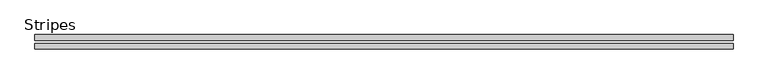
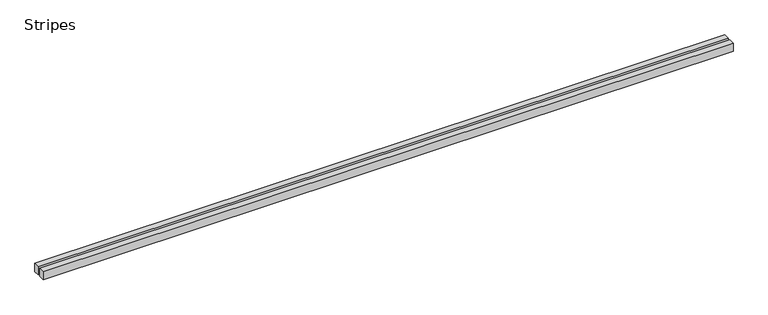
"""IFC4 building model written with IfcOpenShell, lengths in millimetres: sanitary terminal geometry, ZZZ_do not use_PF_ST_grating for showerdrain s_Aco : Stripes."""

from ifc_helpers import new_model, si_unit, frame, origin, place, context, project, spatial, polyline, outline, extrude, source, transform, mapped, element, save


def stripes_a5dfda9a(model_context):
    return source(origin(), model_context, "Body", "SweptSolid", [
        extrude(outline(polyline([(600.0, 12.5), (600.0, 2.5), (-600.0, 2.5), (-600.0, 12.5), (600.0, 12.5)])), frame((0.0, 0.0, -15.0), z_axis=(0.0, 0.0, 1.0), x_axis=(1.0, 0.0, 0.0)), (0.0, 0.0, 1.0), 15.0),
        extrude(outline(polyline([(600.0, -2.5), (600.0, -12.5), (-600.0, -12.5), (-600.0, -2.5), (600.0, -2.5)])), frame((0.0, 0.0, -15.0), z_axis=(0.0, 0.0, 1.0), x_axis=(1.0, 0.0, 0.0)), (0.0, 0.0, 1.0), 15.0),
    ])


if __name__ == "__main__":
    model = new_model("IFC4")
    model_context = context("Model", 3, world=origin())
    ifc_project = project(units=[si_unit("LENGTHUNIT", "METRE", prefix="MILLI")], contexts=[model_context])
    site = spatial("IfcSite", under=ifc_project)
    building = spatial("IfcBuilding", under=site)
    placement = place(None, origin())
    stripes_shape = stripes_a5dfda9a(model_context)
    element("IfcSanitaryTerminal", 1, ObjectType="ZZZ_do not use_PF_ST_grating for showerdrain s_Aco : Stripes", at=placement, inside=building, context=model_context, shape_type="MappedRepresentation", body=[
        mapped(stripes_shape, transform((0.0, 0.0, 0.0), x_axis=(1.0, 0.0, 0.0), y_axis=(0.0, 1.0, 0.0), z_axis=(0.0, 0.0, 1.0))),
    ])
    save(model, "model.ifc")
